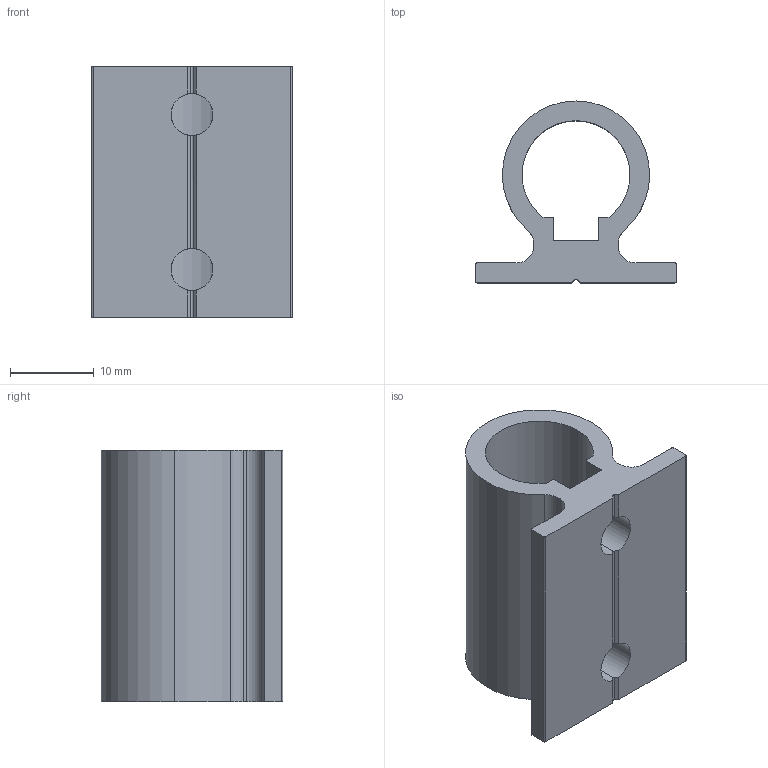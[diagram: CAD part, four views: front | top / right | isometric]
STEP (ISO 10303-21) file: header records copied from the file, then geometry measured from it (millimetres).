
FILE_DESCRIPTION (( 'STEP AP214' ), '1' );
FILE_NAME ('TPL-H-APC-027 09Oct2024.STEP', '2024-10-09T05:00:43', ( '' ), ( '' ), 'SwSTEP 2.0', 'SolidWorks 2023', '' );
FILE_SCHEMA (( 'AUTOMOTIVE_DESIGN' ));
Length unit declared in the file: millimetre
Products named in the file (1): TPL-H-APC-027 09Oct2024
Bounding box: 24 x 21.7 x 30 mm (x, y, z)
Volume: 5376 mm3; surface area: 4555.6 mm2
Topology: 1 solids, 1 shells, 48 faces, 146 edges, 96 vertices
Faces by surface type: cylinder 25, plane 23
Entity records: 1691 total; most frequent: CARTESIAN_POINT 339, ORIENTED_EDGE 292, DIRECTION 278, EDGE_CURVE 146, AXIS2_PLACEMENT_3D 99, VERTEX_POINT 96, LINE 80, VECTOR 80
